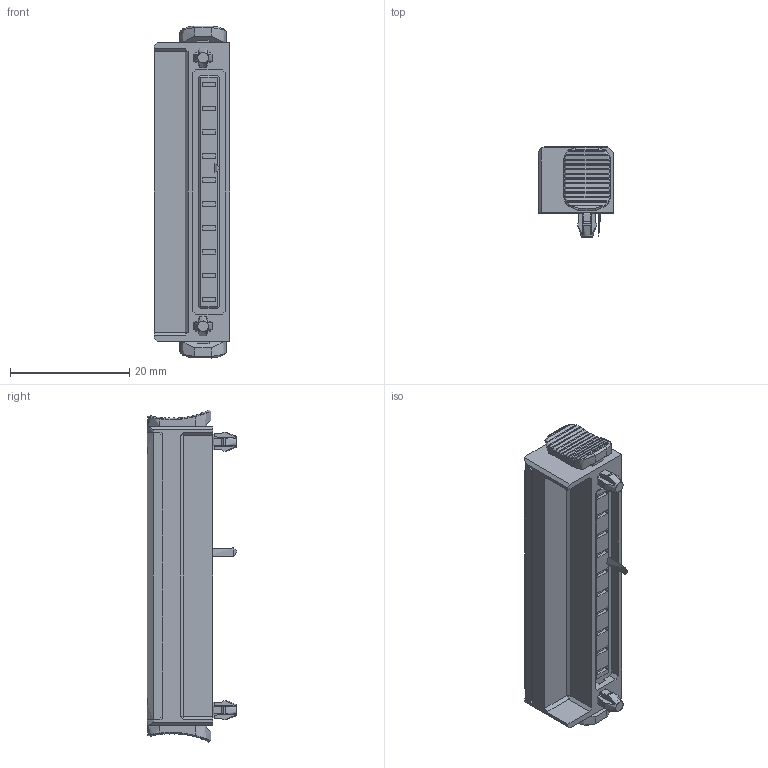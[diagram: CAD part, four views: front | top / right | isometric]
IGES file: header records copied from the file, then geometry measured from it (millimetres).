
Global section: file name: 21.10.212.113.1; native system: unknown; preprocessor: unknown; author: unknown; organization: unknown; date: 20221117.080258; units: millimetre
Bounding box: 12.7 x 15.02 x 55.62 mm (x, y, z)
Volume: 5361.8 mm3; surface area: 4037.2 mm2
Topology: 1 solids, 1 shells, 1341 faces, 3851 edges, 2484 vertices
Faces by surface type: bspline 1341
